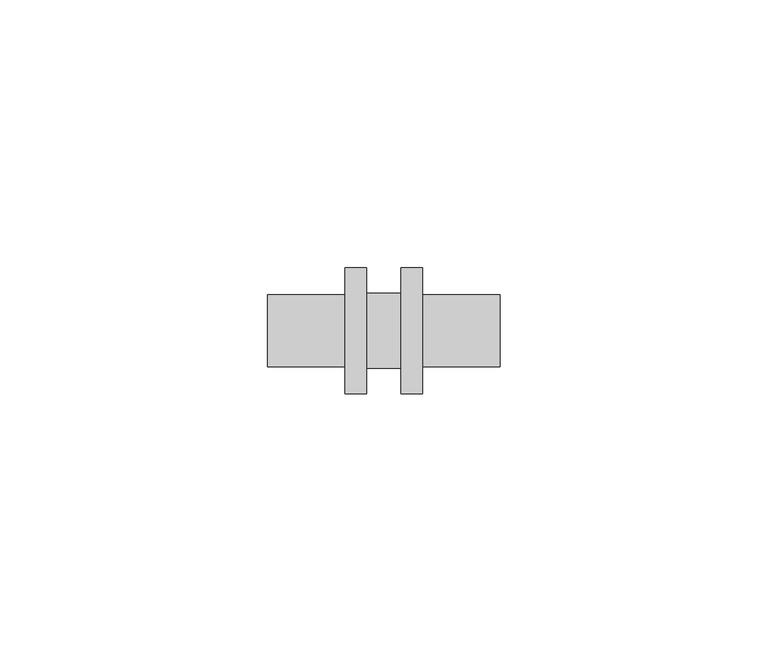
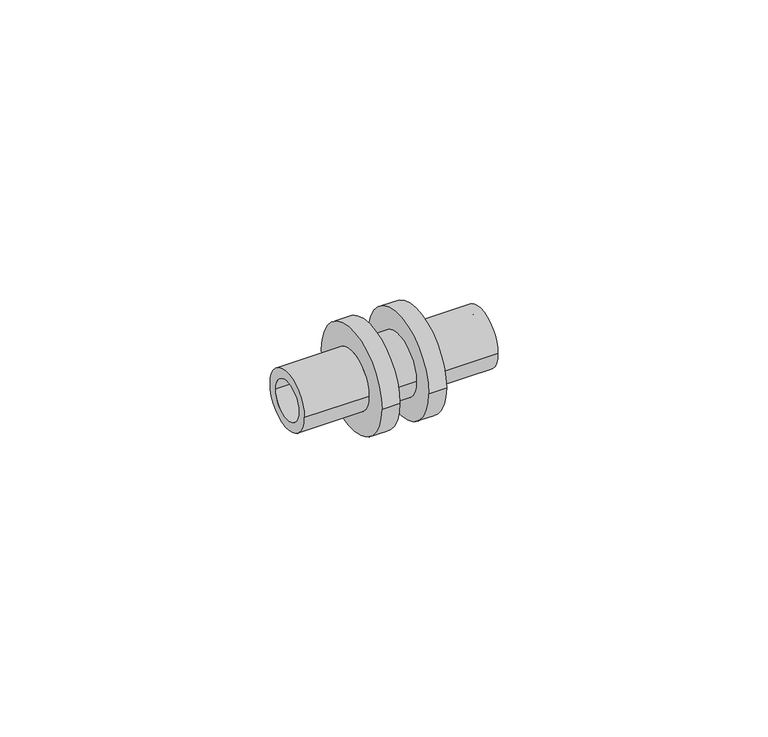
"""IFC4 building model written with IfcOpenShell, lengths in millimetres: pipe fitting geometry, RAUTITAN_Union_PX : RTI PX U DE."""

import ifcopenshell
import ifcopenshell.guid

model = None  # the IFC model being written
_history = None  # IfcOwnerHistory: only IFC2X3 demands one
_inside = {}  # id of a spatial element -> (the spatial element, [elements in it])
_under = {}  # id of a project, library or spatial element -> (it, [spatial elements below it])
_declared = {}  # id of a project -> (the project, [libraries it declares])
_typed = {}  # id of a type object -> (the type object, [elements of that type])
_made_of = {}  # id of a material, layer set ... -> (it, [elements and type objects made of it])


def new_model(schema):
    """Start an empty IFC model of exactly this schema.

    Asked for "IFC4X3", IfcOpenShell would pick the latest addendum, in which some entities
    have other attributes; the version numbers below select the first issue.
    IFC2X3 requires an IfcOwnerHistory on every rooted entity: one is made here for all.
    """
    global model, _history
    if schema == "IFC4X3":
        model = ifcopenshell.file(schema_version=(4, 3, 0, 0))
    else:
        model = ifcopenshell.file(schema=schema)
    _inside.clear()
    _under.clear()
    _declared.clear()
    _typed.clear()
    _made_of.clear()
    _history = None
    if model.schema == "IFC2X3":
        org = make("IfcOrganization", Name="unknown")
        user = make(
            "IfcPersonAndOrganization",
            ThePerson=make("IfcPerson", FamilyName="unknown"),
            TheOrganization=org,
        )
        app = make(
            "IfcApplication",
            ApplicationDeveloper=org,
            Version="unknown",
            ApplicationFullName="unknown",
            ApplicationIdentifier="unknown",
        )
        _history = make(
            "IfcOwnerHistory",
            OwningUser=user,
            OwningApplication=app,
            ChangeAction="ADDED",
            CreationDate=0,
        )
    return model


def make(cls, **values):
    """One entity of the class cls with the attributes given. An attribute that is None is left unset."""
    return model.create_entity(
        cls, **{name: value for name, value in values.items() if value is not None}
    )


def rooted(cls, **values):
    """An entity with a GlobalId (a new one), such as an element, a storey or a relation."""
    return make(cls, GlobalId=ifcopenshell.guid.new(), OwnerHistory=_history, **values)


def si_unit(unit_type, name, prefix=None):
    """IfcSIUnit, for example si_unit("LENGTHUNIT", "METRE", prefix="MILLI")."""
    return make("IfcSIUnit", UnitType=unit_type, Prefix=prefix, Name=name)


def assignment(units):
    """IfcUnitAssignment: the units of a project."""
    return None if units is None else make("IfcUnitAssignment", Units=units)


def point(xyz):
    """IfcCartesianPoint."""
    return None if xyz is None else make("IfcCartesianPoint", Coordinates=xyz)


def direction(xyz):
    """IfcDirection."""
    return None if xyz is None else make("IfcDirection", DirectionRatios=xyz)


def frame(location, z_axis=None, x_axis=None):
    """IfcAxis2Placement3D, a coordinate frame: its origin and axes. An axis left out is left unset."""
    return make(
        "IfcAxis2Placement3D",
        Location=point(location),
        Axis=direction(z_axis),
        RefDirection=direction(x_axis),
    )


def origin():
    """The frame at (0, 0, 0) with its axes left unset."""
    return frame((0.0, 0.0, 0.0))


def place(relative_to, where):
    """IfcLocalPlacement: puts the frame where relative to a parent placement (None: the world)."""
    return make(
        "IfcLocalPlacement", PlacementRelTo=relative_to, RelativePlacement=where
    )


def context(
    kind, dimensions, precision=None, world=None, true_north=None, identifier=None
):
    """IfcGeometricRepresentationContext, for example the 3D "Model" context."""
    return make(
        "IfcGeometricRepresentationContext",
        ContextIdentifier=identifier,
        ContextType=kind,
        CoordinateSpaceDimension=dimensions,
        Precision=precision,
        WorldCoordinateSystem=world,
        TrueNorth=true_north,
    )


def project(units=None, contexts=None):
    """IfcProject with its units and contexts."""
    return rooted(
        "IfcProject",
        Name="project",
        RepresentationContexts=contexts,
        UnitsInContext=assignment(units),
    )


def spatial(cls, under=None, at=None, **own):
    """A site, building, storey or space (cls), placed at a placement, below another one or the project."""
    s = rooted(cls, ObjectPlacement=at, **own)
    if under is not None:
        _under.setdefault(under.id(), (under, []))[1].append(s)
    return s


def polyline(points):
    """IfcPolyline through the points."""
    return make("IfcPolyline", Points=[point(p) for p in points])


def circle_curve(where, radius):
    """IfcCircle in the frame where."""
    return make("IfcCircle", Position=where, Radius=radius)


def shape(context_of_items, identifier, shape_type, items):
    """IfcShapeRepresentation: the items that make up one representation, for example the "Body"."""
    return make(
        "IfcShapeRepresentation",
        ContextOfItems=context_of_items,
        RepresentationIdentifier=identifier,
        RepresentationType=shape_type,
        Items=items,
    )


def source(mapping_origin, context_of_items, identifier, shape_type, items):
    """IfcRepresentationMap: a shape defined once, which mapped items show again and again."""
    return make(
        "IfcRepresentationMap",
        MappingOrigin=mapping_origin,
        MappedRepresentation=shape(context_of_items, identifier, shape_type, items),
    )


def transform(
    local_origin,
    x_axis=None,
    y_axis=None,
    z_axis=None,
    scale=None,
    scale2=None,
    scale3=None,
    uniform=True,
):
    """IfcCartesianTransformationOperator3D, or its non-uniform kind. x_axis, y_axis, z_axis: its Axis1, 2, 3."""
    if uniform:
        return make(
            "IfcCartesianTransformationOperator3D",
            Axis1=direction(x_axis),
            Axis2=direction(y_axis),
            LocalOrigin=point(local_origin),
            Scale=scale,
            Axis3=direction(z_axis),
        )
    return make(
        "IfcCartesianTransformationOperator3DnonUniform",
        Axis1=direction(x_axis),
        Axis2=direction(y_axis),
        LocalOrigin=point(local_origin),
        Scale=scale,
        Axis3=direction(z_axis),
        Scale2=scale2,
        Scale3=scale3,
    )


def mapped(mapping_source, mapping_target):
    """IfcMappedItem: shows the shape of a source again, moved by a transform."""
    return make(
        "IfcMappedItem", MappingSource=mapping_source, MappingTarget=mapping_target
    )


def made_of(thing, what):
    """Note that an element or type object is made of a material, layer set ...; save() writes the relation."""
    if what is not None:
        _made_of.setdefault(what.id(), (what, []))[1].append(thing)
    return thing


def element(
    cls,
    number,
    at=None,
    inside=None,
    cuts=None,
    type_object=None,
    material=None,
    context=None,
    identifier="Body",
    shape_type=None,
    held_by="IfcProductDefinitionShape",
    body=None,
    shapes=None,
    **own,
):
    """One element of the class cls, such as IfcWall. Its Tag is "e" and its number.

    at: its placement. inside: the storey or other place that contains it. cuts: it is an
    opening in that element (IfcRelVoidsElement). A single representation is given by context,
    identifier, shape_type and body (its items); several are given by shapes. held_by: the class
    of the entity that holds the representations. save() writes the other relations.
    """
    e = rooted(cls, Tag="e%d" % number, ObjectPlacement=at, **own)
    if body is not None:
        shapes = [shape(context, identifier, shape_type, body)]
    if shapes is not None:
        e.Representation = make(held_by, Representations=shapes)
    if inside is not None:
        _inside.setdefault(inside.id(), (inside, []))[1].append(e)
    if cuts is not None:
        rooted(
            "IfcRelVoidsElement", RelatingBuildingElement=cuts, RelatedOpeningElement=e
        )
    if type_object is not None:
        _typed.setdefault(type_object.id(), (type_object, []))[1].append(e)
    return made_of(e, material)


def aggregate(whole, parts):
    """IfcRelAggregates: a whole, such as a stair, and the parts it consists of."""
    return rooted("IfcRelAggregates", RelatingObject=whole, RelatedObjects=parts)


def save(model, path):
    """Write the relations noted so far, then the file.

    IfcRelAggregates (storeys below a building ...), IfcRelContainedInSpatialStructure (elements
    in a storey), IfcRelDefinesByType, IfcRelAssociatesMaterial and IfcRelDeclares: one each for
    every whole, place, type object, material and project.
    """
    for whole, parts in _under.values():
        aggregate(whole, parts)
    for where, things in _inside.values():
        rooted(
            "IfcRelContainedInSpatialStructure",
            RelatedElements=things,
            RelatingStructure=where,
        )
    for kind, things in _typed.values():
        rooted("IfcRelDefinesByType", RelatedObjects=things, RelatingType=kind)
    for what, things in _made_of.values():
        rooted("IfcRelAssociatesMaterial", RelatedObjects=things, RelatingMaterial=what)
    for by, libraries in _declared.values():
        rooted("IfcRelDeclares", RelatingContext=by, RelatedDefinitions=libraries)
    model.write(path)


def plane_surface(at):
    """IfcPlane: the flat surface through the origin of the frame at, square to its z axis."""
    return make("IfcPlane", Position=at)


def cylinder_surface(at, radius):
    """IfcCylindricalSurface: all points at the distance radius from the z axis of the frame at."""
    return make("IfcCylindricalSurface", Position=at, Radius=radius)


def revolved_surface(curve, axis_point, axis_direction):
    """IfcSurfaceOfRevolution: the curve turned about the line through axis_point along axis_direction."""
    return make(
        "IfcSurfaceOfRevolution",
        SweptCurve=make("IfcArbitraryOpenProfileDef", ProfileType="CURVE", Curve=curve),
        AxisPosition=make("IfcAxis1Placement", Location=point(axis_point), Axis=direction(axis_direction)),
    )


def advanced_brep(points, edges, surfaces, faces):
    """IfcAdvancedBrep: a solid bounded by faces that lie on surfaces and meet in shared edges.

    An edge is (start, end): straight between two places in points (the first is 0);
    or (start, end, curve); or (start, end, curve, False) where it runs against its curve.
    A face is (place in surfaces, loops), or (place, loops, False) where it looks against
    its surface's normal. A loop lists edges by number (the first is 1), with a minus sign
    where the edge is run from its end to its start. The first loop is the outer one.
    """
    corners = [point(p) for p in points]
    vertices = [make("IfcVertexPoint", VertexGeometry=c) for c in corners]
    made = []
    for start, end, *more in edges:
        made.append(
            make(
                "IfcEdgeCurve",
                EdgeStart=vertices[start],
                EdgeEnd=vertices[end],
                EdgeGeometry=more[0] if more else make("IfcPolyline", Points=[corners[start], corners[end]]),
                SameSense=more[1] if len(more) > 1 else True,
            )
        )
    hull = []
    for where, loops, *sense in faces:
        bounds = []
        for j, loop in enumerate(loops):
            ring = [make("IfcOrientedEdge", EdgeElement=made[abs(k) - 1], Orientation=k > 0) for k in loop]
            bounds.append(
                make(
                    "IfcFaceOuterBound" if j == 0 else "IfcFaceBound",
                    Bound=make("IfcEdgeLoop", EdgeList=ring),
                    Orientation=True,
                )
            )
        hull.append(make("IfcAdvancedFace", Bounds=bounds, FaceSurface=surfaces[where], SameSense=sense[0] if sense else True))
    return make("IfcAdvancedBrep", Outer=make("IfcClosedShell", CfsFaces=hull))


def pipe_fitting_4fda1461(model_context):
    return source(origin(), model_context, "Body", "AdvancedBrep", [
        advanced_brep(
        [(-21.75, 4.5, 0.0), (-21.75, -4.5, 0.0), (21.75, -4.5, 0.0), (21.75, 4.5, 0.0), (-7.25, 6.7, 0.0), (-7.25, -6.7, 0.0), (-21.75, -6.7, 0.0), (-21.75, 6.7, 0.0), (-3.25, 11.8, 0.0), (-3.25, -11.8, 0.0), (-7.25, -11.8, 0.0), (-7.25, 11.8, 0.0), (3.25, 7.0, 0.0), (3.25, -7.0, 0.0), (-3.25, -7.0, 0.0), (-3.25, 7.0, 0.0), (7.25, 11.8, 0.0), (7.25, -11.8, 0.0), (3.25, -11.8, 0.0), (3.25, 11.8, 0.0), (21.75, 6.7, 0.0), (21.75, -6.7, 0.0), (7.25, -6.7, 0.0), (7.25, 6.7, 0.0)],
        [
            (0, 1, circle_curve(frame((-21.75, 0.0, 0.0), z_axis=(-1.0, 0.0, 0.0), x_axis=(0.0, -1.0, 0.0)), 4.5)),
            (1, 2),
            (2, 3, circle_curve(frame((21.75, 0.0, 0.0), z_axis=(1.0, 0.0, 0.0), x_axis=(0.0, -1.0, 0.0)), 4.5)),
            (3, 0),
            (4, 5, circle_curve(frame((-7.25, 0.0, 0.0), z_axis=(-1.0, 0.0, 0.0), x_axis=(0.0, -1.0, 0.0)), 6.7)),
            (5, 6),
            (6, 7, circle_curve(frame((-21.75, 0.0, 0.0), z_axis=(1.0, 0.0, 0.0), x_axis=(0.0, -1.0, 0.0)), 6.7)),
            (7, 4),
            (8, 9, circle_curve(frame((-3.25, 0.0, 0.0), z_axis=(-1.0, 0.0, 0.0), x_axis=(0.0, -1.0, 0.0)), 11.8)),
            (9, 10),
            (10, 11, circle_curve(frame((-7.25, 0.0, 0.0), z_axis=(1.0, 0.0, 0.0), x_axis=(0.0, -1.0, 0.0)), 11.8)),
            (11, 8),
            (12, 13, circle_curve(frame((3.25, 0.0, 0.0), z_axis=(-1.0, 0.0, 0.0), x_axis=(0.0, -1.0, 0.0)), 7.0)),
            (13, 14),
            (14, 15, circle_curve(frame((-3.25, 0.0, 0.0), z_axis=(1.0, 0.0, 0.0), x_axis=(0.0, -1.0, 0.0)), 7.0)),
            (15, 12),
            (16, 17, circle_curve(frame((7.25, 0.0, 0.0), z_axis=(-1.0, 0.0, 0.0), x_axis=(0.0, -1.0, 0.0)), 11.8)),
            (17, 18),
            (18, 19, circle_curve(frame((3.25, 0.0, 0.0), z_axis=(1.0, 0.0, 0.0), x_axis=(0.0, -1.0, 0.0)), 11.8)),
            (19, 16),
            (20, 21, circle_curve(frame((21.75, 0.0, 0.0), z_axis=(-1.0, 0.0, 0.0), x_axis=(0.0, -1.0, 0.0)), 6.7)),
            (21, 22),
            (22, 23, circle_curve(frame((7.25, 0.0, 0.0), z_axis=(1.0, 0.0, 0.0), x_axis=(0.0, -1.0, 0.0)), 6.7)),
            (23, 20),
            (1, 0, circle_curve(frame((-21.75, 0.0, 0.0), z_axis=(-1.0, 0.0, 0.0), x_axis=(0.0, 1.0, 0.0)), 4.5)),
            (3, 2, circle_curve(frame((21.75, 0.0, 0.0), z_axis=(1.0, 0.0, 0.0), x_axis=(0.0, 1.0, 0.0)), 4.5)),
            (6, 7, circle_curve(frame((-21.75, 0.0, 0.0), z_axis=(-1.0, 0.0, 0.0), x_axis=(0.0, 1.0, 0.0)), 6.7)),
            (5, 4, circle_curve(frame((-7.25, 0.0, 0.0), z_axis=(-1.0, 0.0, 0.0), x_axis=(0.0, 1.0, 0.0)), 6.7)),
            (10, 11, circle_curve(frame((-7.25, 0.0, 0.0), z_axis=(-1.0, 0.0, 0.0), x_axis=(0.0, 1.0, 0.0)), 11.8)),
            (9, 8, circle_curve(frame((-3.25, 0.0, 0.0), z_axis=(-1.0, 0.0, 0.0), x_axis=(0.0, 1.0, 0.0)), 11.8)),
            (14, 15, circle_curve(frame((-3.25, 0.0, 0.0), z_axis=(-1.0, 0.0, 0.0), x_axis=(0.0, 1.0, 0.0)), 7.0)),
            (13, 12, circle_curve(frame((3.25, 0.0, 0.0), z_axis=(-1.0, 0.0, 0.0), x_axis=(0.0, 1.0, 0.0)), 7.0)),
            (18, 19, circle_curve(frame((3.25, 0.0, 0.0), z_axis=(-1.0, 0.0, 0.0), x_axis=(0.0, 1.0, 0.0)), 11.8)),
            (17, 16, circle_curve(frame((7.25, 0.0, 0.0), z_axis=(-1.0, 0.0, 0.0), x_axis=(0.0, 1.0, 0.0)), 11.8)),
            (22, 23, circle_curve(frame((7.25, 0.0, 0.0), z_axis=(-1.0, 0.0, 0.0), x_axis=(0.0, 1.0, 0.0)), 6.7)),
            (21, 20, circle_curve(frame((21.75, 0.0, 0.0), z_axis=(-1.0, 0.0, 0.0), x_axis=(0.0, 1.0, 0.0)), 6.7)),
        ],
        [
            revolved_surface(polyline([(21.75, -4.5, 0.0), (-21.75, -4.5, 0.0)]), (0.0, 0.0, 0.0), (1.0, 0.0, 0.0)),
            cylinder_surface(frame((0.0, 0.0, 0.0), z_axis=(1.0, 0.0, 0.0), x_axis=(0.0, -1.0, 0.0)), 6.7),
            cylinder_surface(frame((0.0, 0.0, 0.0), z_axis=(1.0, 0.0, 0.0), x_axis=(0.0, -1.0, 0.0)), 11.8),
            cylinder_surface(frame((0.0, 0.0, 0.0), z_axis=(1.0, 0.0, 0.0), x_axis=(0.0, -1.0, 0.0)), 7.0),
            revolved_surface(polyline([(21.75, 4.5, 0.0), (-21.75, 4.5, 0.0)]), (0.0, 0.0, 0.0), (1.0, 0.0, 0.0)),
            plane_surface(frame((-21.75, 0.0, 0.0), z_axis=(-1.0, 0.0, 0.0), x_axis=(0.0, 1.0, 0.0))),
            cylinder_surface(frame((0.0, 0.0, 0.0), z_axis=(1.0, 0.0, 0.0), x_axis=(0.0, 1.0, 0.0)), 6.7),
            plane_surface(frame((-7.25, 0.0, 0.0), z_axis=(-1.0, 0.0, 0.0), x_axis=(0.0, 1.0, 0.0))),
            cylinder_surface(frame((0.0, 0.0, 0.0), z_axis=(1.0, 0.0, 0.0), x_axis=(0.0, 1.0, 0.0)), 11.8),
            plane_surface(frame((-3.25, 0.0, 0.0), z_axis=(1.0, 0.0, 0.0), x_axis=(0.0, 1.0, 0.0))),
            cylinder_surface(frame((0.0, 0.0, 0.0), z_axis=(1.0, 0.0, 0.0), x_axis=(0.0, 1.0, 0.0)), 7.0),
            plane_surface(frame((3.25, 0.0, 0.0), z_axis=(-1.0, 0.0, 0.0), x_axis=(0.0, 1.0, 0.0))),
            plane_surface(frame((7.25, 0.0, 0.0), z_axis=(1.0, 0.0, 0.0), x_axis=(0.0, 1.0, 0.0))),
            plane_surface(frame((21.75, 0.0, 0.0), z_axis=(1.0, 0.0, 0.0), x_axis=(0.0, 1.0, 0.0))),
        ],
        [
            (0, [[1, 2, 3, 4]]),
            (1, [[5, 6, 7, 8]]),
            (2, [[9, 10, 11, 12]]),
            (3, [[13, 14, 15, 16]]),
            (2, [[17, 18, 19, 20]]),
            (1, [[21, 22, 23, 24]]),
            (4, [[25, -4, 26, -2]]),
            (5, [[27, -7], [-25, -1]]),
            (6, [[28, -8, -27, -6]]),
            (7, [[29, -11], [-28, -5]]),
            (8, [[30, -12, -29, -10]]),
            (9, [[-30, -9], [31, -15]]),
            (10, [[32, -16, -31, -14]]),
            (11, [[33, -19], [-32, -13]]),
            (8, [[34, -20, -33, -18]]),
            (12, [[-34, -17], [35, -23]]),
            (6, [[36, -24, -35, -22]]),
            (13, [[-36, -21], [-26, -3]]),
        ],
    ),
    ])


if __name__ == "__main__":
    model = new_model("IFC4")
    model_context = context("Model", 3, world=origin())
    ifc_project = project(units=[si_unit("LENGTHUNIT", "METRE", prefix="MILLI")], contexts=[model_context])
    site = spatial("IfcSite", under=ifc_project)
    building = spatial("IfcBuilding", under=site)
    placement = place(None, origin())
    pipe_fitting_shape = pipe_fitting_4fda1461(model_context)
    element("IfcPipeFitting", 1, ObjectType="RAUTITAN_Union_PX : RTI PX U DE", at=placement, inside=building, context=model_context, shape_type="MappedRepresentation", body=[
        mapped(pipe_fitting_shape, transform((0.0, 0.0, 0.0), x_axis=(1.0, 0.0, 0.0), y_axis=(0.0, 1.0, 0.0), z_axis=(0.0, 0.0, 1.0))),
    ])
    save(model, "model.ifc")
